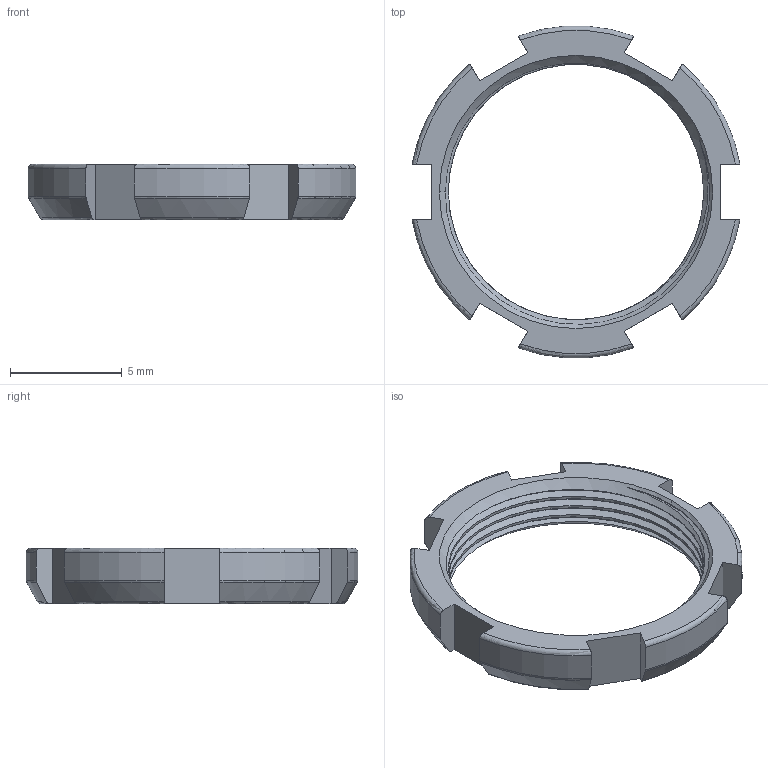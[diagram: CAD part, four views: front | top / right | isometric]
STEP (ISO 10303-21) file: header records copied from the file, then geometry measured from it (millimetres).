
FILE_DESCRIPTION((''),'2;1');
FILE_NAME('00057989','2020-10-30T11:15:06',('EUnterhaslberger'),(''),'CREO PARAMETRIC BY PTC INC, 2018300','CREO PARAMETRIC BY PTC INC, 2018300','');
FILE_SCHEMA(('AP242_MANAGED_MODEL_BASED_3D_ENGINEERING_MIM_LF { 1 0 10303 442 1 1 4 }'));
Length unit declared in the file: millimetre
Products named in the file (1): 00057989
Bounding box: 14.69 x 14.86 x 2.5 mm (x, y, z)
Volume: 119.8 mm3; surface area: 353.4 mm2
Topology: 1 solids, 1 shells, 67 faces, 193 edges, 128 vertices
Faces by surface type: plane 20, torus 18, cylinder 13, cone 10, bspline 6
Entity records: 4601 total; most frequent: CARTESIAN_POINT 2283, ORIENTED_EDGE 386, DIRECTION 287, PRESENTATION_STYLE_ASSIGNMENT 194, STYLED_ITEM 194, CURVE_STYLE 193, EDGE_CURVE 193, VERTEX_POINT 128
